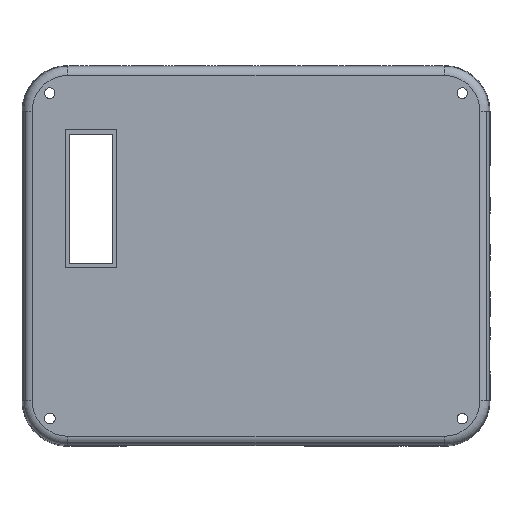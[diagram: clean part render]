
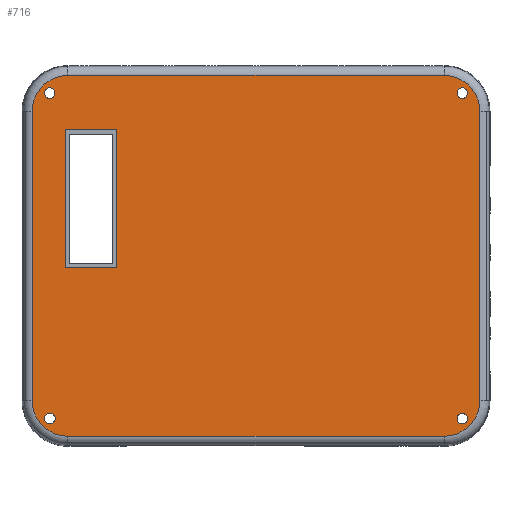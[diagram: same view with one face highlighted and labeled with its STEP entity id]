
A CAD part, top view. The second image highlights one B-rep face of the part: STEP entity #716.
In plain terms, the highlighted planar face has unit normal (0, 0, 1).
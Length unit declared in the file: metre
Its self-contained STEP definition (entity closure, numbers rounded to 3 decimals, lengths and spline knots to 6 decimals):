
#716=ADVANCED_FACE('0:556',(#1437,#1438,#1439,#1440,#1441,#1442),#1443,.T.);
#1437=FACE_OUTER_BOUND('',#3610,.T.);
#1438=FACE_BOUND('',#3611,.T.);
#1439=FACE_BOUND('',#3612,.T.);
#1440=FACE_BOUND('',#3613,.T.);
#1441=FACE_BOUND('',#3614,.T.);
#1442=FACE_BOUND('',#3615,.T.);
#1443=PLANE('',#3616);
#3610=EDGE_LOOP('',(#5536,#5537,#5538,#5539,#5540,#5541,#5542,#5543));
#3611=EDGE_LOOP('',(#5544,#5545));
#3612=EDGE_LOOP('',(#5546,#5547));
#3613=EDGE_LOOP('',(#5548,#5549));
#3614=EDGE_LOOP('',(#5550,#5551));
#3615=EDGE_LOOP('',(#5552,#5553,#5554,#5555));
#3616=AXIS2_PLACEMENT_3D('',#5556,#5557,#5558);
#5536=ORIENTED_EDGE('',*,*,#5965,.F.);
#5537=ORIENTED_EDGE('',*,*,#6677,.F.);
#5538=ORIENTED_EDGE('',*,*,#5970,.F.);
#5539=ORIENTED_EDGE('',*,*,#6680,.F.);
#5540=ORIENTED_EDGE('',*,*,#5975,.F.);
#5541=ORIENTED_EDGE('',*,*,#6683,.F.);
#5542=ORIENTED_EDGE('',*,*,#6166,.F.);
#5543=ORIENTED_EDGE('',*,*,#6686,.F.);
#5544=ORIENTED_EDGE('',*,*,#6162,.T.);
#5545=ORIENTED_EDGE('',*,*,#5986,.T.);
#5546=ORIENTED_EDGE('',*,*,#6159,.T.);
#5547=ORIENTED_EDGE('',*,*,#5991,.T.);
#5548=ORIENTED_EDGE('',*,*,#6156,.T.);
#5549=ORIENTED_EDGE('',*,*,#5996,.T.);
#5550=ORIENTED_EDGE('',*,*,#6153,.T.);
#5551=ORIENTED_EDGE('',*,*,#6001,.T.);
#5552=ORIENTED_EDGE('',*,*,#6699,.T.);
#5553=ORIENTED_EDGE('',*,*,#6700,.T.);
#5554=ORIENTED_EDGE('',*,*,#6701,.T.);
#5555=ORIENTED_EDGE('',*,*,#6702,.T.);
#5556=CARTESIAN_POINT('',(0.065723,0.052895,0.0204));
#5557=DIRECTION('',(0.,0.,1.0));
#5558=DIRECTION('',(1.0,0.,0.0));
#5965=EDGE_CURVE('0:760',#6888,#6890,#6891,.T.);
#5970=EDGE_CURVE('0:748',#6897,#6899,#6900,.T.);
#5975=EDGE_CURVE('0:736',#6906,#6908,#6909,.T.);
#5986=EDGE_CURVE('',#6922,#6926,#6928,.T.);
#5991=EDGE_CURVE('',#6931,#6935,#6937,.T.);
#5996=EDGE_CURVE('',#6940,#6944,#6946,.T.);
#6001=EDGE_CURVE('',#6949,#6953,#6955,.T.);
#6153=EDGE_CURVE('0:691',#6953,#6949,#7210,.T.);
#6156=EDGE_CURVE('0:697',#6944,#6940,#7213,.T.);
#6159=EDGE_CURVE('0:703',#6935,#6931,#7216,.T.);
#6162=EDGE_CURVE('0:709',#6926,#6922,#7219,.T.);
#6166=EDGE_CURVE('0:718',#7222,#7224,#7225,.T.);
#6677=EDGE_CURVE('0:2242',#6899,#6888,#7959,.T.);
#6680=EDGE_CURVE('0:2248',#6908,#6897,#7962,.T.);
#6683=EDGE_CURVE('0:2254',#7224,#6906,#7965,.T.);
#6686=EDGE_CURVE('0:2260',#6890,#7222,#7968,.T.);
#6699=EDGE_CURVE('0:2287',#7981,#7982,#7983,.T.);
#6700=EDGE_CURVE('0:2290',#7982,#7984,#7985,.T.);
#6701=EDGE_CURVE('0:2293',#7984,#7986,#7987,.T.);
#6702=EDGE_CURVE('0:2296',#7986,#7981,#7988,.T.);
#6888=VERTEX_POINT('',#8210);
#6890=VERTEX_POINT('',#8212);
#6891=LINE('',#8213,#8214);
#6897=VERTEX_POINT('',#8221);
#6899=VERTEX_POINT('',#8223);
#6900=LINE('',#8224,#8225);
#6906=VERTEX_POINT('',#8232);
#6908=VERTEX_POINT('',#8234);
#6909=LINE('',#8235,#8236);
#6922=VERTEX_POINT('',#8251);
#6926=VERTEX_POINT('',#8256);
#6928=CIRCLE('',#8259,0.00155);
#6931=VERTEX_POINT('',#8262);
#6935=VERTEX_POINT('',#8267);
#6937=CIRCLE('',#8270,0.00155);
#6940=VERTEX_POINT('',#8273);
#6944=VERTEX_POINT('',#8278);
#6946=CIRCLE('',#8281,0.00155);
#6949=VERTEX_POINT('',#8284);
#6953=VERTEX_POINT('',#8289);
#6955=CIRCLE('',#8292,0.00155);
#7210=CIRCLE('',#8916,0.00155);
#7213=CIRCLE('',#8919,0.00155);
#7216=CIRCLE('',#8922,0.00155);
#7219=CIRCLE('',#8925,0.00155);
#7222=VERTEX_POINT('',#8928);
#7224=VERTEX_POINT('',#8930);
#7225=LINE('',#8931,#8932);
#7959=CIRCLE('',#10241,0.010558);
#7962=CIRCLE('',#10244,0.010558);
#7965=CIRCLE('',#10247,0.010558);
#7968=CIRCLE('',#10250,0.010558);
#7981=VERTEX_POINT('',#10270);
#7982=VERTEX_POINT('',#10271);
#7983=LINE('',#10272,#10273);
#7984=VERTEX_POINT('',#10274);
#7985=LINE('',#10275,#10276);
#7986=VERTEX_POINT('',#10277);
#7987=LINE('',#10278,#10279);
#7988=LINE('',#10280,#10281);
#8210=CARTESIAN_POINT('',(0.121125,-0.000237,0.0204));
#8212=CARTESIAN_POINT('',(0.01032,-0.000237,0.0204));
#8213=CARTESIAN_POINT('',(0.051792,-0.000237,0.0204));
#8214=VECTOR('',#10492,1.0);
#8221=CARTESIAN_POINT('',(0.131682,0.09547,0.0204));
#8223=CARTESIAN_POINT('',(0.131682,0.01032,0.0204));
#8224=CARTESIAN_POINT('',(0.131682,0.042172,0.0204));
#8225=VECTOR('',#10500,1.0);
#8232=CARTESIAN_POINT('',(0.01032,0.106028,0.0204));
#8234=CARTESIAN_POINT('',(0.121125,0.106028,0.0204));
#8235=CARTESIAN_POINT('',(0.079653,0.106028,0.0204));
#8236=VECTOR('',#10508,1.0);
#8251=CARTESIAN_POINT('',(0.0034,0.10085,0.0204));
#8256=CARTESIAN_POINT('',(0.0065,0.10085,0.0204));
#8259=AXIS2_PLACEMENT_3D('',#10525,#10526,#10527);
#8262=CARTESIAN_POINT('',(0.12494,0.00495,0.0204));
#8267=CARTESIAN_POINT('',(0.12804,0.00495,0.0204));
#8270=AXIS2_PLACEMENT_3D('',#10533,#10534,#10535);
#8273=CARTESIAN_POINT('',(0.00345,0.005,0.0204));
#8278=CARTESIAN_POINT('',(0.00655,0.005,0.0204));
#8281=AXIS2_PLACEMENT_3D('',#10541,#10542,#10543);
#8284=CARTESIAN_POINT('',(0.12494,0.10085,0.0204));
#8289=CARTESIAN_POINT('',(0.12804,0.10085,0.0204));
#8292=AXIS2_PLACEMENT_3D('',#10549,#10550,#10551);
#8916=AXIS2_PLACEMENT_3D('',#10757,#10758,#10759);
#8919=AXIS2_PLACEMENT_3D('',#10763,#10764,#10765);
#8922=AXIS2_PLACEMENT_3D('',#10769,#10770,#10771);
#8925=AXIS2_PLACEMENT_3D('',#10775,#10776,#10777);
#8928=CARTESIAN_POINT('',(-0.000237,0.01032,0.0204));
#8930=CARTESIAN_POINT('',(-0.000237,0.09547,0.0204));
#8931=CARTESIAN_POINT('',(-0.000237,0.063619,0.0204));
#8932=VECTOR('',#10784,1.0);
#10241=AXIS2_PLACEMENT_3D('',#11257,#11258,#11259);
#10244=AXIS2_PLACEMENT_3D('',#11263,#11264,#11265);
#10247=AXIS2_PLACEMENT_3D('',#11269,#11270,#11271);
#10250=AXIS2_PLACEMENT_3D('',#11275,#11276,#11277);
#10270=CARTESIAN_POINT('',(0.009569,0.049392,0.0204));
#10271=CARTESIAN_POINT('',(0.009569,0.089992,0.0204));
#10272=CARTESIAN_POINT('',(0.009569,0.051144,0.0204));
#10273=VECTOR('',#11288,0.01);
#10274=CARTESIAN_POINT('',(0.024769,0.089992,0.0204));
#10275=CARTESIAN_POINT('',(0.037646,0.089992,0.0204));
#10276=VECTOR('',#11289,0.01);
#10277=CARTESIAN_POINT('',(0.024769,0.049392,0.0204));
#10278=CARTESIAN_POINT('',(0.024769,0.071444,0.0204));
#10279=VECTOR('',#11290,0.01);
#10280=CARTESIAN_POINT('',(0.045246,0.049392,0.0204));
#10281=VECTOR('',#11291,0.01);
#10492=DIRECTION('',(-1.0,0.,0.));
#10500=DIRECTION('',(0.,-1.0,0.));
#10508=DIRECTION('',(1.0,0.,0.));
#10525=CARTESIAN_POINT('',(0.00495,0.10085,0.0204));
#10526=DIRECTION('',(-0.0,0.,-1.0));
#10527=DIRECTION('',(-1.0,0.0,0.0));
#10533=CARTESIAN_POINT('',(0.12649,0.00495,0.0204));
#10534=DIRECTION('',(-0.0,0.,-1.0));
#10535=DIRECTION('',(-1.0,0.0,0.0));
#10541=CARTESIAN_POINT('',(0.005,0.005,0.0204));
#10542=DIRECTION('',(-0.0,0.,-1.0));
#10543=DIRECTION('',(-1.0,0.0,0.0));
#10549=CARTESIAN_POINT('',(0.12649,0.10085,0.0204));
#10550=DIRECTION('',(-0.0,0.,-1.0));
#10551=DIRECTION('',(-1.0,0.0,0.0));
#10757=CARTESIAN_POINT('',(0.12649,0.10085,0.0204));
#10758=DIRECTION('',(-0.0,0.,-1.0));
#10759=DIRECTION('',(-1.0,0.0,0.0));
#10763=CARTESIAN_POINT('',(0.005,0.005,0.0204));
#10764=DIRECTION('',(-0.0,0.,-1.0));
#10765=DIRECTION('',(-1.0,0.0,0.0));
#10769=CARTESIAN_POINT('',(0.12649,0.00495,0.0204));
#10770=DIRECTION('',(-0.0,0.,-1.0));
#10771=DIRECTION('',(-1.0,0.0,0.0));
#10775=CARTESIAN_POINT('',(0.00495,0.10085,0.0204));
#10776=DIRECTION('',(-0.0,0.,-1.0));
#10777=DIRECTION('',(-1.0,0.0,0.0));
#10784=DIRECTION('',(0.,1.0,0.));
#11257=CARTESIAN_POINT('',(0.121125,0.01032,0.0204));
#11258=DIRECTION('',(0.,0.,-1.0));
#11259=DIRECTION('',(0.707,-0.707,0.));
#11263=CARTESIAN_POINT('',(0.121125,0.09547,0.0204));
#11264=DIRECTION('',(0.,0.,-1.0));
#11265=DIRECTION('',(0.707,0.707,0.));
#11269=CARTESIAN_POINT('',(0.01032,0.09547,0.0204));
#11270=DIRECTION('',(0.,0.,-1.0));
#11271=DIRECTION('',(-0.707,0.707,0.));
#11275=CARTESIAN_POINT('',(0.01032,0.01032,0.0204));
#11276=DIRECTION('',(0.,0.,-1.0));
#11277=DIRECTION('',(-0.707,-0.707,0.));
#11288=DIRECTION('',(0.,1.0,0.));
#11289=DIRECTION('',(1.0,0.0,0.));
#11290=DIRECTION('',(0.,-1.0,0.));
#11291=DIRECTION('',(-1.0,0.0,0.));
